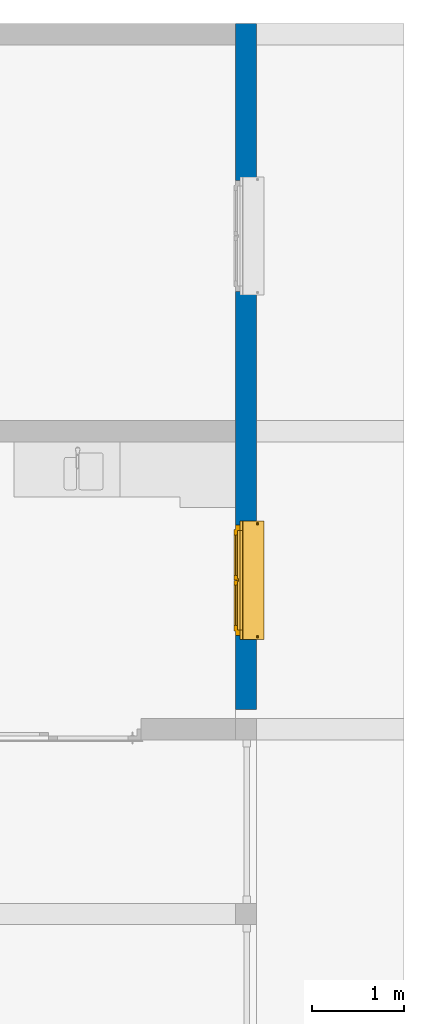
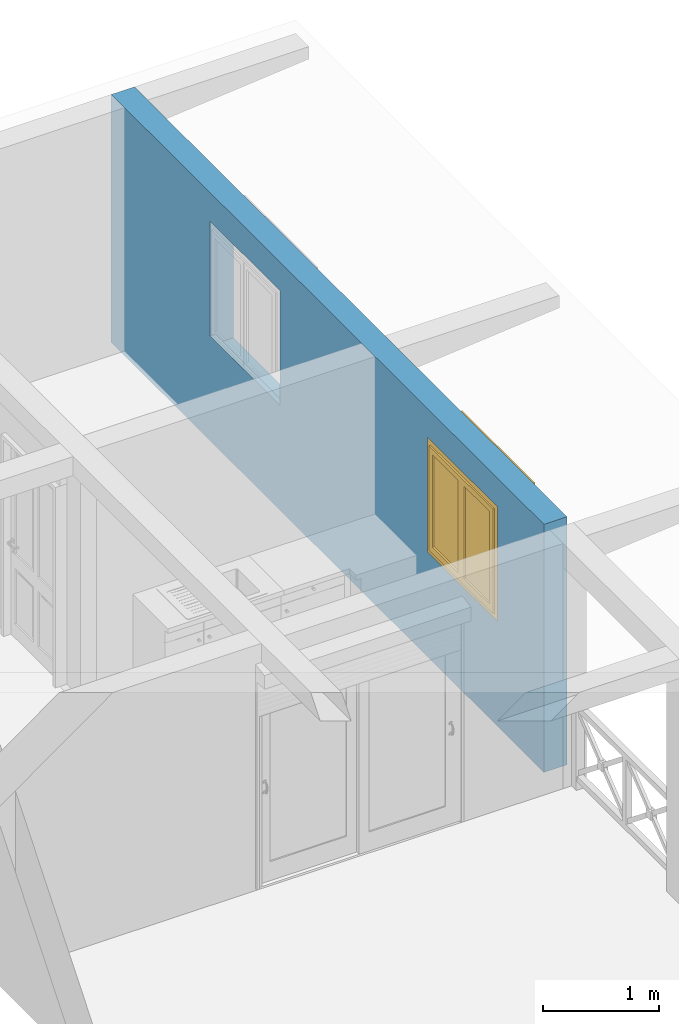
# One storey, part 2 of 13: 1 wall, 1 window, 2 openings.
"""IFC2X3 building model written with IfcOpenShell, lengths in metres."""

from ifc_helpers import new_model, entity, si_unit, converted_unit, derived_unit, money_unit, direction, frame, origin_with_axes, place, context, subcontext, project, spatial, polyline, outline, extrude, boolean, faceted_brep, source, transform, mapped, material, type_object, element, fill, save


model = new_model("IFC2X3")

# Units and contexts
model_context = context("Model", 3, precision=1e-05, world=origin_with_axes(), true_north=direction((0.0, 1.0)))
body_context = subcontext(model_context, "Body", "Model", "MODEL_VIEW")
ifc_project = project(units=[si_unit("LENGTHUNIT", "METRE"), si_unit("AREAUNIT", "SQUARE_METRE"), si_unit("VOLUMEUNIT", "CUBIC_METRE"), converted_unit("PLANEANGLEUNIT", "DEGREE", entity("IfcPlaneAngleMeasure", 0.0174532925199), si_unit("PLANEANGLEUNIT", "RADIAN"), dimensions=[0, 0, 0, 0, 0, 0, 0]), si_unit("SOLIDANGLEUNIT", "STERADIAN"), money_unit("CHF"), converted_unit("TIMEUNIT", "Year", entity("IfcTimeMeasure", 31556926.0), si_unit("TIMEUNIT", "SECOND"), dimensions=[0, 0, 1, 0, 0, 0, 0]), si_unit("MASSUNIT", "GRAM", prefix="KILO"), si_unit("THERMODYNAMICTEMPERATUREUNIT", "DEGREE_CELSIUS"), si_unit("LUMINOUSINTENSITYUNIT", "LUMEN"), si_unit("ENERGYUNIT", "JOULE", prefix="MEGA"), derived_unit("THERMALCONDUCTANCEUNIT", [(si_unit("POWERUNIT", "WATT"), 1), (si_unit("LENGTHUNIT", "METRE"), -1), (si_unit("THERMODYNAMICTEMPERATUREUNIT", "KELVIN"), -1)]), derived_unit("SPECIFICHEATCAPACITYUNIT", [(si_unit("ENERGYUNIT", "JOULE"), 1), (si_unit("MASSUNIT", "GRAM", prefix="KILO"), -1), (si_unit("THERMODYNAMICTEMPERATUREUNIT", "KELVIN"), -1)]), derived_unit("MASSDENSITYUNIT", [(si_unit("MASSUNIT", "GRAM", prefix="KILO"), 1), (si_unit("VOLUMEUNIT", "CUBIC_METRE"), -1)])], contexts=[model_context])

# Site, building, storey
site_placement = place(None, origin_with_axes())
site = spatial("IfcSite", under=ifc_project, at=site_placement, Name="Site", CompositionType="ELEMENT")
building_placement = place(site_placement, origin_with_axes())
building = spatial("IfcBuilding", under=site, at=building_placement, Name="Bâtiment", CompositionType="ELEMENT")
storey_placement = place(building_placement, origin_with_axes())
storey = spatial("IfcBuildingStorey", under=building, at=storey_placement, Name="SOUS-SOL", CompositionType="ELEMENT", Elevation=0.0)

# Wall, openings, window
ifc_material = material(Name="Hachure solide 2628782308")
wall_type = type_object("IfcWallType", Name="Hachure solide 2628782308 230", PredefinedType="NOTDEFINED")
wall_placement = place(storey_placement, frame((94.9655190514, 11.0503410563, -2.79), z_axis=(0.0, 0.0, 1.0), x_axis=(0.0, 1.0, 0.0)))
wall = element("IfcWall", 1, at=wall_placement, inside=storey, type_object=wall_type, material=ifc_material, Name="MurExt-005", context=body_context, shape_type="CSG", body=[
    boolean("DIFFERENCE", extrude(outline(polyline([(0.0, 0.0), (7.76, 0.0), (7.76, 0.23), (0.0, 0.23), (0.0, 0.0)])), origin_with_axes(), (0.0, 0.0, 1.0), 2.6), faceted_brep([(0.33, 0.0, 0.0), (0.33, 0.0, 2.6), (0.0, 0.0, 2.6), (0.0, 0.0, 0.0), (0.33, 0.23, 2.6), (0.33, 0.23, 0.0), (0.0, 0.23, 2.6), (0.0, 0.23, 0.0)], [[[0, 1, 2, 3]], [[4, 1, 0, 5]], [[1, 4, 6, 2]], [[6, 7, 3, 2]], [[5, 0, 3, 7]], [[4, 5, 7, 6]]])),
])
opening_1_placement = place(wall_placement, frame((1.73, 0.0, 1.1), z_axis=(0.0, 0.0, 1.0), x_axis=(1.0, 0.0, 0.0)))
opening_1 = element("IfcOpeningElement", 2, at=opening_1_placement, cuts=wall, Name="Fen-009", context=body_context, shape_type="SweptSolid", body=[
    extrude(outline(polyline([(0.6, 0.0), (-0.6, 0.0), (-0.6, -0.9), (0.0, 0.0), (0.6, -0.9), (0.6, 0.0)])), frame((0.0, 0.23, 0.0), z_axis=(0.0, -1.0, 0.0), x_axis=(-1.0, 0.0, 0.0)), (0.0, 0.0, 1.0), 0.46),
    extrude(outline(polyline([(-0.6, -1.2), (0.6, -1.2), (0.6, 0.0), (-0.6, 0.0), (-0.6, -1.2)])), frame((0.0, 0.23, 0.0), z_axis=(0.0, -1.0, 0.0), x_axis=(-1.0, 0.0, 0.0)), (0.0, 0.0, 1.0), 0.46),
    extrude(outline(polyline([(0.6, -0.1), (0.6, 0.001), (-0.6, 0.001), (-0.6, -0.1), (0.6, -0.1)])), frame((0.0, 0.18, 0.0), z_axis=(0.0, 1.0, 0.0), x_axis=(-1.0, 0.0, 0.0)), (0.0, 0.0, -1.0), 0.23),
])
opening_2_placement = place(wall_placement, frame((5.46014193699, 0.0, 1.1), z_axis=(0.0, 0.0, 1.0), x_axis=(1.0, 0.0, 0.0)))
element("IfcOpeningElement", 3, at=opening_2_placement, cuts=wall, Name="Fen-009", context=body_context, shape_type="SweptSolid", body=[
    extrude(outline(polyline([(0.6, 0.0), (-0.6, 0.0), (-0.6, -0.9), (0.0, 0.0), (0.6, -0.9), (0.6, 0.0)])), frame((0.0, 0.23, 0.0), z_axis=(0.0, 1.0, 0.0), x_axis=(1.0, 0.0, 0.0)), (0.0, 0.0, -1.0), 0.46),
    extrude(outline(polyline([(-0.6, -1.2), (0.6, -1.2), (0.6, 0.0), (-0.6, 0.0), (-0.6, -1.2)])), frame((0.0, 0.23, 0.0), z_axis=(0.0, 1.0, 0.0), x_axis=(1.0, 0.0, 0.0)), (0.0, 0.0, -1.0), 0.46),
    extrude(outline(polyline([(0.6, -0.1), (0.6, 0.001), (-0.6, 0.001), (-0.6, -0.1), (0.6, -0.1)])), frame((0.0, 0.18, 0.0), z_axis=(0.0, -1.0, 0.0), x_axis=(1.0, 0.0, 0.0)), (0.0, 0.0, 1.0), 0.23),
])
window_style = type_object("IfcWindowStyle", Name="Fenêtre 2v", ConstructionType="NOTDEFINED", OperationType="NOTDEFINED", ParameterTakesPrecedence=False, Sizeable=False)
shared_shape = source(origin_with_axes(), body_context, "Body", "Brep", [
    faceted_brep([(-0.6, -0.23, 0.0), (-0.6, -0.18, 0.0), (-0.54, -0.18, 0.0), (-0.54, -0.23, 0.0), (-0.6, -0.23, 1.2), (-0.6, -0.18, 1.2), (0.6, -0.18, 1.2), (0.6, -0.18, 0.0), (0.54, -0.18, 0.0), (0.54, -0.18, 1.14), (-0.54, -0.18, 1.14), (-0.54, -0.23, 1.14), (0.54, -0.23, 1.14), (0.54, -0.23, 0.0), (0.6, -0.23, 0.0), (0.6, -0.23, 1.2)], [[[0, 1, 2, 3]], [[4, 5, 1, 0]], [[1, 5, 6, 7, 8, 9, 10, 2]], [[3, 2, 10, 11]], [[0, 3, 11, 12, 13, 14, 15, 4]], [[15, 6, 5, 4]], [[14, 7, 6, 15]], [[13, 8, 7, 14]], [[12, 9, 8, 13]], [[11, 10, 9, 12]]]),
    faceted_brep([(0.54, -0.23, 0.0), (0.54, -0.18, 0.0), (0.54, -0.18, 0.06), (0.54, -0.23, 0.06), (-0.54, -0.23, 0.0), (-0.54, -0.18, 0.0), (-0.54, -0.18, 0.06), (-0.54, -0.23, 0.06)], [[[0, 1, 2, 3]], [[4, 5, 1, 0]], [[1, 5, 6, 2]], [[3, 2, 6, 7]], [[0, 3, 7, 4]], [[7, 6, 5, 4]]]),
    faceted_brep([(0.54, -0.15, 0.0), (0.54, -0.15, 0.02), (0.54, -0.18, 0.04), (0.54, -0.18, 0.0), (-0.54, -0.15, 0.0), (-0.54, -0.15, 0.02), (-0.54, -0.18, 0.04), (-0.54, -0.18, 0.0)], [[[0, 1, 2, 3]], [[4, 5, 1, 0]], [[1, 5, 6, 2]], [[3, 2, 6, 7]], [[0, 3, 7, 4]], [[7, 6, 5, 4]]]),
    faceted_brep([(-0.05, -0.2275, 0.12), (-0.05, -0.2275, 1.0899), (-0.49, -0.2275, 1.0899), (-0.49, -0.2275, 0.12), (-0.05, -0.2225, 1.0899), (-0.05, -0.2225, 0.12), (-0.49, -0.2225, 1.0899), (-0.49, -0.2225, 0.12)], [[[0, 1, 2, 3]], [[4, 1, 0, 5]], [[1, 4, 6, 2]], [[6, 7, 3, 2]], [[5, 0, 3, 7]], [[4, 5, 7, 6]]]),
    faceted_brep([(0.05, -0.2225, 1.0899), (0.05, -0.2275, 1.0899), (0.49, -0.2275, 1.0899), (0.49, -0.2225, 1.0899), (0.05, -0.2275, 0.12), (0.05, -0.2225, 0.12), (0.49, -0.2275, 0.12), (0.49, -0.2225, 0.12)], [[[0, 1, 2, 3]], [[4, 1, 0, 5]], [[1, 4, 6, 2]], [[7, 3, 2, 6]], [[5, 0, 3, 7]], [[4, 5, 7, 6]]]),
    faceted_brep([(0.05, -0.245, 1.091), (0.05, -0.245, 1.0899), (0.49, -0.245, 1.0899), (0.49, -0.245, 0.12), (0.548, -0.245, 0.12), (0.548, -0.245, 1.1479), (-0.548, -0.245, 1.1479), (-0.548, -0.245, 0.12), (-0.49, -0.245, 0.12), (-0.49, -0.245, 1.0899), (-0.05, -0.245, 1.0899), (-0.05, -0.245, 1.091), (-0.0025, -0.245, 1.091), (-0.0025, -0.245, 1.14), (0.0025, -0.245, 1.14), (0.0025, -0.245, 1.091), (0.05, -0.205, 1.091), (0.05, -0.205, 1.0899), (0.49, -0.205, 1.0899), (0.49, -0.205, 0.12), (0.54, -0.205, 0.12), (0.54, -0.23, 0.12), (0.55, -0.23, 0.12), (0.55, -0.23, 1.1499), (-0.55, -0.23, 1.1499), (-0.55, -0.23, 0.12), (-0.54, -0.205, 0.12), (-0.49, -0.205, 0.12), (-0.54, -0.23, 0.12), (-0.49, -0.205, 1.0899), (-0.05, -0.205, 1.0899), (-0.05, -0.205, 1.091), (-0.0025, -0.205, 1.091), (-0.0025, -0.205, 1.1399), (-0.0025, -0.23, 1.1399), (-0.0025, -0.23, 1.14), (0.0025, -0.23, 1.14), (0.0025, -0.205, 1.091), (0.0025, -0.23, 1.1399), (0.0025, -0.205, 1.1399), (0.54, -0.205, 1.1399), (0.54, -0.23, 1.1399), (-0.54, -0.23, 1.1399), (-0.54, -0.205, 1.1399)], [[[0, 1, 2, 3, 4, 5, 6, 7, 8, 9, 10, 11, 12, 13, 14, 15]], [[1, 0, 16, 17]], [[1, 17, 18, 2]], [[18, 19, 3, 2]], [[20, 21, 22, 4, 3, 19]], [[5, 4, 22, 23]], [[6, 5, 23, 24]], [[7, 6, 24, 25]], [[26, 27, 8, 7, 25, 28]], [[27, 29, 9, 8]], [[30, 10, 9, 29]], [[11, 10, 30, 31]], [[32, 12, 11, 31]], [[12, 32, 33, 34, 35, 13]], [[13, 35, 36, 14]], [[37, 15, 14, 36, 38, 39]], [[0, 15, 37, 16]], [[16, 37, 39, 40, 20, 19, 18, 17]], [[41, 21, 20, 40]], [[41, 38, 36, 35, 34, 42, 28, 25, 24, 23, 22, 21]], [[31, 30, 29, 27, 26, 43, 33, 32]], [[28, 42, 43, 26]], [[33, 43, 42, 34]], [[38, 41, 40, 39]]]),
    faceted_brep([(0.54, -0.23, 0.12), (0.54, -0.245, 0.12), (0.548, -0.245, 0.12), (0.55, -0.23, 0.12), (0.54, -0.245, 0.06), (0.54, -0.23, 0.06), (0.0025, -0.245, 0.06), (0.0025, -0.245, 0.052), (0.548, -0.245, 0.052), (0.55, -0.23, 0.05), (0.0025, -0.23, 0.05), (0.0025, -0.23, 0.06)], [[[0, 1, 2, 3]], [[4, 1, 0, 5]], [[4, 6, 7, 8, 2, 1]], [[2, 8, 9, 3]], [[5, 0, 3, 9, 10, 11]], [[6, 4, 5, 11]], [[6, 11, 10, 7]], [[10, 9, 8, 7]]]),
    faceted_brep([(-0.0025, -0.23, 0.06), (-0.0025, -0.245, 0.06), (-0.0025, -0.245, 0.052), (-0.0025, -0.23, 0.05), (-0.54, -0.245, 0.06), (-0.54, -0.23, 0.06), (-0.54, -0.245, 0.12), (-0.548, -0.245, 0.12), (-0.548, -0.245, 0.052), (-0.55, -0.23, 0.05), (-0.55, -0.23, 0.12), (-0.54, -0.23, 0.12)], [[[0, 1, 2, 3]], [[4, 1, 0, 5]], [[4, 6, 7, 8, 2, 1]], [[2, 8, 9, 3]], [[5, 0, 3, 9, 10, 11]], [[11, 6, 4, 5]], [[6, 11, 10, 7]], [[8, 7, 10, 9]]]),
    faceted_brep([(0.05, -0.205, 0.12), (0.05, -0.245, 0.12), (0.49, -0.245, 0.12), (0.49, -0.205, 0.12), (0.05, -0.245, 0.119), (0.05, -0.205, 0.119), (0.0025, -0.245, 0.119), (0.0025, -0.245, 0.06), (0.54, -0.245, 0.06), (0.54, -0.245, 0.12), (0.54, -0.205, 0.12), (0.54, -0.205, 0.06), (0.0025, -0.205, 0.06), (0.0025, -0.205, 0.119)], [[[0, 1, 2, 3]], [[4, 1, 0, 5]], [[4, 6, 7, 8, 9, 2, 1]], [[3, 2, 9, 10]], [[5, 0, 3, 10, 11, 12, 13]], [[6, 4, 5, 13]], [[6, 13, 12, 7]], [[12, 11, 8, 7]], [[10, 9, 8, 11]]]),
    faceted_brep([(-0.0025, -0.205, 0.119), (-0.0025, -0.245, 0.119), (-0.0025, -0.245, 0.06), (-0.0025, -0.205, 0.06), (-0.05, -0.245, 0.119), (-0.05, -0.205, 0.119), (-0.05, -0.245, 0.12), (-0.49, -0.245, 0.12), (-0.54, -0.245, 0.12), (-0.54, -0.245, 0.06), (-0.54, -0.205, 0.06), (-0.54, -0.205, 0.12), (-0.49, -0.205, 0.12), (-0.05, -0.205, 0.12)], [[[0, 1, 2, 3]], [[4, 1, 0, 5]], [[4, 6, 7, 8, 9, 2, 1]], [[2, 9, 10, 3]], [[5, 0, 3, 10, 11, 12, 13]], [[13, 6, 4, 5]], [[6, 13, 12, 11, 8, 7]], [[10, 9, 8, 11]]]),
    faceted_brep([(-0.0025, -0.245, 0.119), (-0.0025, -0.245, 1.091), (-0.05, -0.245, 1.091), (-0.05, -0.245, 0.119), (-0.0025, -0.205, 1.091), (-0.0025, -0.205, 0.119), (-0.05, -0.205, 1.091), (-0.05, -0.205, 0.119)], [[[0, 1, 2, 3]], [[4, 1, 0, 5]], [[1, 4, 6, 2]], [[6, 7, 3, 2]], [[5, 0, 3, 7]], [[4, 5, 7, 6]]]),
    faceted_brep([(0.0025, -0.205, 1.091), (0.0025, -0.245, 1.091), (0.05, -0.245, 1.091), (0.05, -0.205, 1.091), (0.0025, -0.245, 0.119), (0.0025, -0.205, 0.119), (0.05, -0.245, 0.119), (0.05, -0.205, 0.119)], [[[0, 1, 2, 3]], [[4, 1, 0, 5]], [[1, 4, 6, 2]], [[7, 3, 2, 6]], [[5, 0, 3, 7]], [[4, 5, 7, 6]]]),
    faceted_brep([(-0.0166666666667, -0.205, 0.06), (-0.0166666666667, -0.195, 0.06), (0.0166666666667, -0.195, 0.06), (0.0166666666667, -0.205, 0.06), (-0.0166666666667, -0.205, 1.14), (-0.0166666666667, -0.195, 1.14), (0.0166666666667, -0.195, 1.14), (0.0166666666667, -0.205, 1.14)], [[[0, 1, 2, 3]], [[4, 5, 1, 0]], [[1, 5, 6, 2]], [[3, 2, 6, 7]], [[0, 3, 7, 4]], [[7, 6, 5, 4]]]),
    faceted_brep([(-0.64, -0.18, -0.1), (0.64, -0.18, -0.1), (0.64, -0.18, 0.0), (-0.64, -0.18, 0.0), (-0.64, 0.06, -0.1), (0.64, 0.06, -0.1), (0.64, 0.06, -0.094), (0.64, 0.07, -0.094), (0.64, 0.07, -0.1), (0.64, 0.08, -0.1), (0.64, 0.08, -0.06), (0.64, -0.13, -0.02), (0.64, -0.134126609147, -0.0188422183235), (0.64, -0.13799671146, -0.0170005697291), (0.64, -0.141497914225, -0.014528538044), (0.64, -0.144528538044, -0.0114979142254), (0.64, -0.147000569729, -0.00799671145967), (0.64, -0.148842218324, -0.00412660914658), (0.64, -0.15, 0.0), (-0.64, -0.15, 0.0), (-0.64, -0.148842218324, -0.00412660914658), (-0.64, -0.147000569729, -0.00799671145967), (-0.64, -0.144528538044, -0.0114979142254), (-0.64, -0.141497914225, -0.014528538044), (-0.64, -0.13799671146, -0.0170005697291), (-0.64, -0.134126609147, -0.0188422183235), (-0.64, -0.13, -0.02), (-0.64, 0.08, -0.06), (-0.64, 0.08, -0.1), (-0.64, 0.07, -0.1), (-0.64, 0.07, -0.094), (-0.64, 0.06, -0.094)], [[[0, 1, 2, 3]], [[4, 5, 1, 0]], [[1, 5, 6, 7, 8, 9, 10, 11, 12, 13, 14, 15, 16, 17, 18, 2]], [[3, 2, 18, 19]], [[0, 3, 19, 20, 21, 22, 23, 24, 25, 26, 27, 28, 29, 30, 31, 4]], [[31, 6, 5, 4]], [[30, 7, 6, 31]], [[29, 8, 7, 30]], [[28, 9, 8, 29]], [[27, 10, 9, 28]], [[26, 11, 10, 27]], [[25, 12, 11, 26]], [[24, 13, 12, 25]], [[23, 14, 13, 24]], [[22, 15, 14, 23]], [[21, 16, 15, 22]], [[20, 17, 16, 21]], [[19, 18, 17, 20]]]),
    faceted_brep([(0.625, 0.0, 1.35), (0.622, 0.0, 1.35), (0.622, 0.0, 1.2), (0.625, 0.0, 1.2), (0.625, 0.13, 1.33862647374), (0.622, 0.13, 1.33862647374), (0.622, 0.13, 1.18), (0.622, 0.127, 1.18), (0.622, 0.021, 1.18), (0.622, 0.021, 1.2), (0.625, 0.021, 1.2), (0.625, 0.021, 1.18), (0.625, 0.127, 1.18), (0.625, 0.13, 1.18)], [[[0, 1, 2, 3]], [[4, 5, 1, 0]], [[1, 5, 6, 7, 8, 9, 2]], [[3, 2, 9, 10]], [[0, 3, 10, 11, 12, 13, 4]], [[13, 6, 5, 4]], [[12, 7, 6, 13]], [[11, 8, 7, 12]], [[10, 9, 8, 11]]]),
    faceted_brep([(-0.622, 0.018, 1.203), (0.622, 0.018, 1.203), (0.622, 0.127, 1.203), (-0.622, 0.127, 1.203), (0.622, 0.018, 1.2), (-0.622, 0.018, 1.2), (0.622, 0.127, 1.2), (0.622, 0.127, 1.18), (0.622, 0.13, 1.18), (0.622, 0.13, 1.33862647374), (0.622, 0.0, 1.35), (0.622, 0.0, 1.34698854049), (0.622, 0.127, 1.33587748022), (-0.622, 0.127, 1.33587748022), (-0.622, 0.0, 1.34698854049), (-0.622, 0.0, 1.35), (-0.622, 0.13, 1.33862647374), (-0.622, 0.13, 1.18), (-0.622, 0.127, 1.18), (-0.622, 0.127, 1.2)], [[[0, 1, 2, 3]], [[4, 1, 0, 5]], [[1, 4, 6, 7, 8, 9, 10, 11, 12, 2]], [[12, 13, 3, 2]], [[5, 0, 3, 13, 14, 15, 16, 17, 18, 19]], [[4, 5, 19, 6]], [[18, 7, 6, 19]], [[17, 8, 7, 18]], [[16, 9, 8, 17]], [[15, 10, 9, 16]], [[11, 10, 15, 14]], [[11, 14, 13, 12]]]),
    faceted_brep([(-0.622, 0.0, 1.35), (-0.625, 0.0, 1.35), (-0.625, 0.0, 1.2), (-0.622, 0.0, 1.2), (-0.622, 0.13, 1.33862647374), (-0.625, 0.13, 1.33862647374), (-0.625, 0.13, 1.18), (-0.625, 0.127, 1.18), (-0.625, 0.021, 1.18), (-0.625, 0.021, 1.2), (-0.622, 0.021, 1.2), (-0.622, 0.021, 1.18), (-0.622, 0.127, 1.18), (-0.622, 0.13, 1.18)], [[[0, 1, 2, 3]], [[4, 5, 1, 0]], [[1, 5, 6, 7, 8, 9, 2]], [[3, 2, 9, 10]], [[0, 3, 10, 11, 12, 13, 4]], [[13, 6, 5, 4]], [[12, 7, 6, 13]], [[11, 8, 7, 12]], [[10, 9, 8, 11]]]),
    faceted_brep([(0.6, 0.021, 1.18), (0.625, 0.021, 1.18), (0.625, 0.021, 0.0), (0.6, 0.021, 0.0), (0.6, 0.018, 1.18), (0.622, 0.018, 1.18), (0.622, 0.003, 1.18), (0.6, 0.003, 1.18), (0.6, 0.0, 1.18), (0.625, 0.0, 1.18), (0.625, 0.0, 0.0), (0.6, 0.0, 0.0), (0.6, 0.003, 0.0), (0.622, 0.003, 0.0), (0.622, 0.018, 0.0), (0.6, 0.018, 0.0)], [[[0, 1, 2, 3]], [[0, 4, 5, 6, 7, 8, 9, 1]], [[1, 9, 10, 2]], [[3, 2, 10, 11, 12, 13, 14, 15]], [[4, 0, 3, 15]], [[5, 4, 15, 14]], [[6, 5, 14, 13]], [[7, 6, 13, 12]], [[8, 7, 12, 11]], [[9, 8, 11, 10]]]),
    faceted_brep([(0.6, 0.003, 0.003), (0.6, 0.018, 0.003), (0.6, 0.018, 0.0), (0.6, 0.003, 0.0), (0.622, 0.003, 0.003), (0.622, 0.018, 0.003), (0.622, 0.018, 0.0), (0.622, 0.003, 0.0)], [[[0, 1, 2, 3]], [[0, 4, 5, 1]], [[1, 5, 6, 2]], [[3, 2, 6, 7]], [[4, 0, 3, 7]], [[5, 4, 7, 6]]]),
    faceted_brep([(0.6, 0.021, 1.2), (0.625, 0.021, 1.2), (0.625, 0.021, 1.18), (0.6, 0.021, 1.18), (0.6, 0.018, 1.2), (0.622, 0.018, 1.2), (0.622, 0.003, 1.2), (0.6, 0.003, 1.2), (0.6, 0.0, 1.2), (0.625, 0.0, 1.2), (0.625, 0.0, 1.18), (0.6, 0.0, 1.18), (0.6, 0.003, 1.18), (0.622, 0.003, 1.18), (0.622, 0.018, 1.18), (0.6, 0.018, 1.18)], [[[0, 1, 2, 3]], [[0, 4, 5, 6, 7, 8, 9, 1]], [[1, 9, 10, 2]], [[3, 2, 10, 11, 12, 13, 14, 15]], [[4, 0, 3, 15]], [[5, 4, 15, 14]], [[6, 5, 14, 13]], [[7, 6, 13, 12]], [[8, 7, 12, 11]], [[9, 8, 11, 10]]]),
    faceted_brep([(-0.6, 0.021, 1.18), (-0.6, 0.021, 0.0), (-0.625, 0.021, 0.0), (-0.625, 0.021, 1.18), (-0.6, 0.018, 1.18), (-0.6, 0.018, 0.0), (-0.622, 0.018, 0.0), (-0.622, 0.003, 0.0), (-0.6, 0.003, 0.0), (-0.6, 0.0, 0.0), (-0.625, 0.0, 0.0), (-0.625, 0.0, 1.18), (-0.6, 0.0, 1.18), (-0.6, 0.003, 1.18), (-0.622, 0.003, 1.18), (-0.622, 0.018, 1.18)], [[[0, 1, 2, 3]], [[4, 5, 1, 0]], [[1, 5, 6, 7, 8, 9, 10, 2]], [[3, 2, 10, 11]], [[0, 3, 11, 12, 13, 14, 15, 4]], [[15, 6, 5, 4]], [[14, 7, 6, 15]], [[13, 8, 7, 14]], [[12, 9, 8, 13]], [[11, 10, 9, 12]]]),
    faceted_brep([(-0.6, 0.003, 0.003), (-0.6, 0.003, 0.0), (-0.6, 0.018, 0.0), (-0.6, 0.018, 0.003), (-0.622, 0.003, 0.003), (-0.622, 0.003, 0.0), (-0.622, 0.018, 0.0), (-0.622, 0.018, 0.003)], [[[0, 1, 2, 3]], [[4, 5, 1, 0]], [[1, 5, 6, 2]], [[3, 2, 6, 7]], [[0, 3, 7, 4]], [[7, 6, 5, 4]]]),
    faceted_brep([(-0.6, 0.021, 1.2), (-0.6, 0.021, 1.18), (-0.625, 0.021, 1.18), (-0.625, 0.021, 1.2), (-0.6, 0.018, 1.2), (-0.6, 0.018, 1.18), (-0.622, 0.018, 1.18), (-0.622, 0.003, 1.18), (-0.6, 0.003, 1.18), (-0.6, 0.0, 1.18), (-0.625, 0.0, 1.18), (-0.625, 0.0, 1.2), (-0.6, 0.0, 1.2), (-0.6, 0.003, 1.2), (-0.622, 0.003, 1.2), (-0.622, 0.018, 1.2)], [[[0, 1, 2, 3]], [[4, 5, 1, 0]], [[1, 5, 6, 7, 8, 9, 10, 2]], [[3, 2, 10, 11]], [[0, 3, 11, 12, 13, 14, 15, 4]], [[15, 6, 5, 4]], [[14, 7, 6, 15]], [[13, 8, 7, 14]], [[12, 9, 8, 13]], [[11, 10, 9, 12]]]),
    faceted_brep([(0.622, 0.0113089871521, 1.26006647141), (0.622, 0.0137113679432, 1.25110066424), (0.622, 0.0176341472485, 1.24268823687), (0.622, 0.0229581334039, 1.23508479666), (0.622, 0.0295215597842, 1.22852137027), (0.622, 0.037125, 1.22319738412), (0.622, 0.0455374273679, 1.21927460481), (0.622, 0.0545032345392, 1.21687222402), (0.622, 0.06375, 1.21606323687), (0.622, 0.0729967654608, 1.21687222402), (0.622, 0.0819625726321, 1.21927460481), (0.622, 0.090375, 1.22319738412), (0.622, 0.0979784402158, 1.22852137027), (0.622, 0.104541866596, 1.23508479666), (0.622, 0.109865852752, 1.24268823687), (0.622, 0.113788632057, 1.25110066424), (0.622, 0.116191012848, 1.26006647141), (0.622, 0.117, 1.26931323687), (0.622, 0.116191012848, 1.27856000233), (0.622, 0.113788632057, 1.2875258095), (0.622, 0.109865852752, 1.29593823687), (0.622, 0.104541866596, 1.30354167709), (0.622, 0.0979784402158, 1.31010510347), (0.622, 0.090375, 1.31542908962), (0.622, 0.0819625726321, 1.31935186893), (0.622, 0.0729967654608, 1.32175424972), (0.622, 0.06375, 1.32256323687), (0.622, 0.0545032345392, 1.32175424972), (0.622, 0.0455374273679, 1.31935186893), (0.622, 0.037125, 1.31542908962), (0.622, 0.0295215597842, 1.31010510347), (0.622, 0.0229581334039, 1.30354167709), (0.622, 0.0176341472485, 1.29593823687), (0.622, 0.0137113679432, 1.2875258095), (0.622, 0.0113089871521, 1.27856000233), (0.622, 0.0105, 1.26931323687), (-0.622, 0.0113089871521, 1.26006647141), (-0.622, 0.0137113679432, 1.25110066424), (-0.622, 0.0176341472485, 1.24268823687), (-0.622, 0.0229581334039, 1.23508479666), (-0.622, 0.0295215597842, 1.22852137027), (-0.622, 0.037125, 1.22319738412), (-0.622, 0.0455374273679, 1.21927460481), (-0.622, 0.0545032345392, 1.21687222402), (-0.622, 0.06375, 1.21606323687), (-0.622, 0.0729967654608, 1.21687222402), (-0.622, 0.0819625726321, 1.21927460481), (-0.622, 0.090375, 1.22319738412), (-0.622, 0.0979784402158, 1.22852137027), (-0.622, 0.104541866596, 1.23508479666), (-0.622, 0.109865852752, 1.24268823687), (-0.622, 0.113788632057, 1.25110066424), (-0.622, 0.116191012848, 1.26006647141), (-0.622, 0.117, 1.26931323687), (-0.622, 0.116191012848, 1.27856000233), (-0.622, 0.113788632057, 1.2875258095), (-0.622, 0.109865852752, 1.29593823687), (-0.622, 0.104541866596, 1.30354167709), (-0.622, 0.0979784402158, 1.31010510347), (-0.622, 0.090375, 1.31542908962), (-0.622, 0.0819625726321, 1.31935186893), (-0.622, 0.0729967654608, 1.32175424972), (-0.622, 0.06375, 1.32256323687), (-0.622, 0.0545032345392, 1.32175424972), (-0.622, 0.0455374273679, 1.31935186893), (-0.622, 0.037125, 1.31542908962), (-0.622, 0.0295215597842, 1.31010510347), (-0.622, 0.0229581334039, 1.30354167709), (-0.622, 0.0176341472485, 1.29593823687), (-0.622, 0.0137113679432, 1.2875258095), (-0.622, 0.0113089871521, 1.27856000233), (-0.622, 0.0105, 1.26931323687)], [[[0, 1, 2, 3, 4, 5, 6, 7, 8, 9, 10, 11, 12, 13, 14, 15, 16, 17, 18, 19, 20, 21, 22, 23, 24, 25, 26, 27, 28, 29, 30, 31, 32, 33, 34, 35]], [[1, 0, 36, 37]], [[2, 1, 37, 38]], [[3, 2, 38, 39]], [[4, 3, 39, 40]], [[5, 4, 40, 41]], [[6, 5, 41, 42]], [[7, 6, 42, 43]], [[8, 7, 43, 44]], [[9, 8, 44, 45]], [[10, 9, 45, 46]], [[11, 10, 46, 47]], [[12, 11, 47, 48]], [[13, 12, 48, 49]], [[14, 13, 49, 50]], [[15, 14, 50, 51]], [[16, 15, 51, 52]], [[17, 16, 52, 53]], [[18, 17, 53, 54]], [[19, 18, 54, 55]], [[20, 19, 55, 56]], [[21, 20, 56, 57]], [[22, 21, 57, 58]], [[23, 22, 58, 59]], [[24, 23, 59, 60]], [[25, 24, 60, 61]], [[26, 25, 61, 62]], [[27, 26, 62, 63]], [[28, 27, 63, 64]], [[29, 28, 64, 65]], [[30, 29, 65, 66]], [[31, 30, 66, 67]], [[32, 31, 67, 68]], [[33, 32, 68, 69]], [[34, 33, 69, 70]], [[35, 34, 70, 71]], [[0, 35, 71, 36]], [[36, 71, 70, 69, 68, 67, 66, 65, 64, 63, 62, 61, 60, 59, 58, 57, 56, 55, 54, 53, 52, 51, 50, 49, 48, 47, 46, 45, 44, 43, 42, 41, 40, 39, 38, 37]]]),
    faceted_brep([(-0.622, 0.00966666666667, 1.26931323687), (-0.622, 0.00966666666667, 1.26666666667), (0.622, 0.00966666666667, 1.26666666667), (0.622, 0.00966666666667, 1.26931323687), (-0.622, 0.0146666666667, 1.26931323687), (-0.622, 0.0146666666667, 1.26666666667), (-0.622, 0.013, 1.25), (-0.622, 0.008, 1.25), (0.622, 0.008, 1.25), (0.622, 0.013, 1.25), (0.622, 0.0146666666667, 1.26666666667), (0.622, 0.0146666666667, 1.26931323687)], [[[0, 1, 2, 3]], [[4, 5, 6, 7, 1, 0]], [[2, 1, 7, 8]], [[3, 2, 8, 9, 10, 11]], [[3, 11, 4, 0]], [[10, 5, 4, 11]], [[9, 6, 5, 10]], [[8, 7, 6, 9]]]),
    faceted_brep([(0.622, 0.008, 1.25), (-0.622, 0.008, 1.25), (-0.622, 0.00966666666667, 1.23333333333), (0.622, 0.00966666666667, 1.23333333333), (0.622, 0.013, 1.25), (-0.622, 0.013, 1.25), (-0.622, 0.0146666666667, 1.23333333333), (-0.622, 0.0146666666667, 1.21666666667), (-0.622, 0.013, 1.2), (-0.622, 0.008, 1.2), (-0.622, 0.00966666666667, 1.21666666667), (0.622, 0.00966666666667, 1.21666666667), (0.622, 0.008, 1.2), (0.622, 0.013, 1.2), (0.622, 0.0146666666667, 1.21666666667), (0.622, 0.0146666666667, 1.23333333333)], [[[0, 1, 2, 3]], [[4, 5, 1, 0]], [[1, 5, 6, 7, 8, 9, 10, 2]], [[3, 2, 10, 11]], [[0, 3, 11, 12, 13, 14, 15, 4]], [[15, 6, 5, 4]], [[14, 7, 6, 15]], [[13, 8, 7, 14]], [[12, 9, 8, 13]], [[11, 10, 9, 12]]]),
])
window_placement = place(opening_1_placement, frame((0.6, 0.0, 0.0), z_axis=(0.0, 0.0, 1.0), x_axis=(-1.0, 0.0, 0.0)))
window = element("IfcWindow", 4, at=window_placement, inside=storey, type_object=window_style, Name="Fen-009", OverallHeight=1.2, OverallWidth=1.2, context=body_context, shape_type="MappedRepresentation", body=[
    mapped(shared_shape, transform((0.6, 0.0, 0.0))),
])
fill(opening_1, window)

save(model, "model.ifc")
